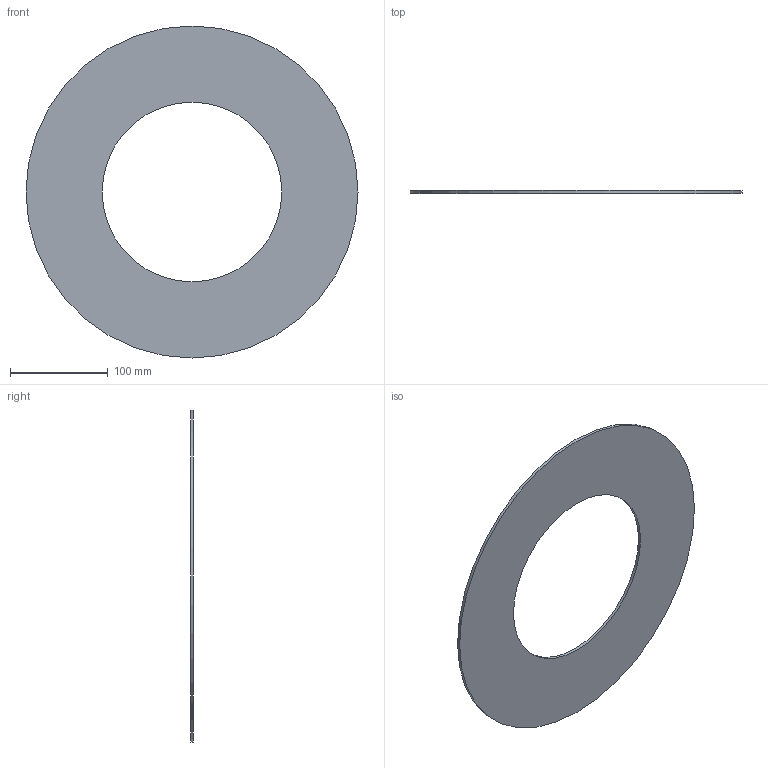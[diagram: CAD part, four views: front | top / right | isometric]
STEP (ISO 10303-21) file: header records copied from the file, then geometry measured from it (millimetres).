
FILE_DESCRIPTION(/* description */ ('Unknown'),/* implementation_level */ '2;1');
FILE_NAME(/* name */ 'GUA.250H',/* time_stamp */ '2021-04-01T15:05:54+02:00',/* author */ ('Unknown'),/* organization */ ('Unknown'),/* preprocessor_version */ 'ST-DEVELOPER v16.7',/* originating_system */ 'Solid Edge',/* authorisation */ 'Unknown');
FILE_SCHEMA (('AUTOMOTIVE_DESIGN {1 0 10303 214 3 1 1}'));
Length unit declared in the file: millimetre
Products named in the file (1): GUA.250H
Bounding box: 340 x 3 x 340 mm (x, y, z)
Volume: 192604.8 mm3; surface area: 133341.8 mm2
Topology: 1 solids, 1 shells, 4 faces, 6 edges, 4 vertices
Faces by surface type: cylinder 2, plane 2
Full cylindrical faces by diameter (mm): 184 x1, 340 x1
Entity records: 118 total; most frequent: DIRECTION 18, CARTESIAN_POINT 13, AXIS2_PLACEMENT_3D 9, ORIENTED_EDGE 8, EDGE_LOOP 8, FACE_BOUND 8, EDGE_CURVE 4, VERTEX_POINT 4
